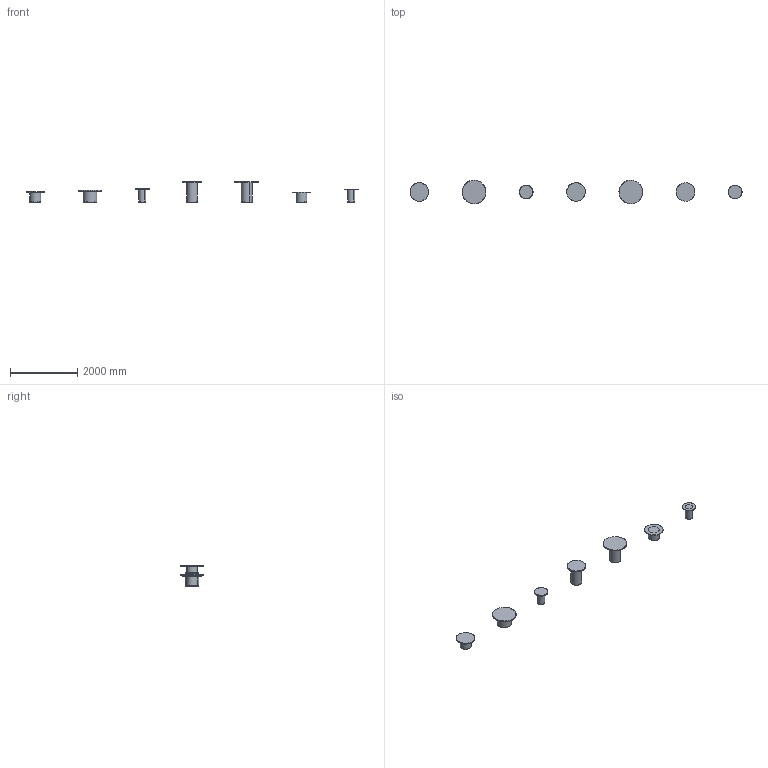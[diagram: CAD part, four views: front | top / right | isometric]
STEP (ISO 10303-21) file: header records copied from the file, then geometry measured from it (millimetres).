
FILE_DESCRIPTION ((), '1');
FILE_NAME ('N:\e15\ ENTWICKLUNG\PRODUCT_COLLECTION\06_VEREINFACHTE 3D WEB\_Fertig\02_WEBSITE_3D\CT09_ENOKI\CT09_ENOKI.stp', '2022-08-26T10:08:20', ('Unknown'), ('Unknown'), 'HarmonyWare STEP v2.1.0', 'Vectorworks', '');
FILE_SCHEMA (('CONFIG_CONTROL_DESIGN'));
Length unit declared in the file: millimetre
Bounding box: 9849.96 x 699.34 x 602 mm (x, y, z)
Volume: 61777447.1 mm3; surface area: 9314310 mm2
Topology: 21 solids, 21 shells, 96 faces, 158 edges, 104 vertices
Faces by surface type: bspline 96
Entity records: 3733 total; most frequent: CARTESIAN_POINT 2520, ORIENTED_EDGE 316, EDGE_CURVE 158, EDGE_LOOP 124, VERTEX_POINT 104, FACE_OUTER_BOUND 96, ADVANCED_FACE 96, B_SPLINE_CURVE_WITH_KNOTS 94
